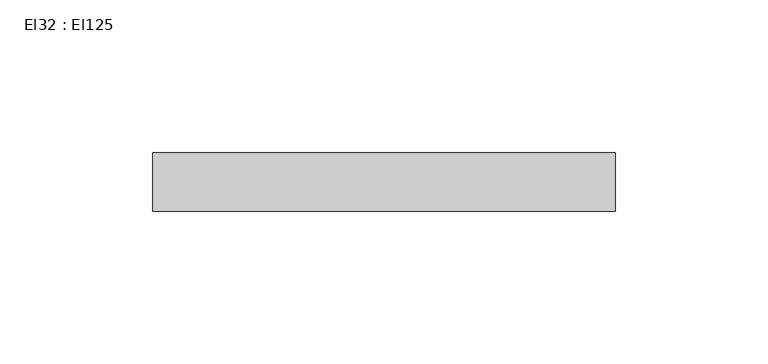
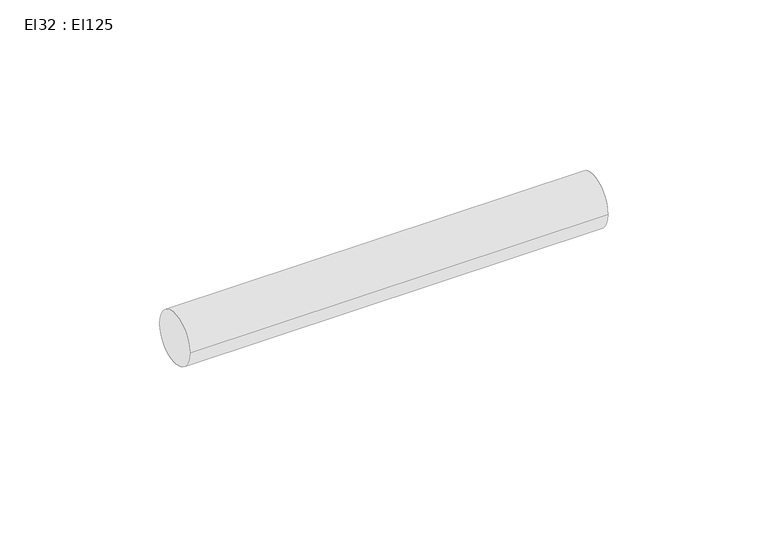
"""IFC4 building model written with IfcOpenShell, lengths in millimetres: cable carrier segment geometry, El32 : El125."""

from ifc_helpers import new_model, si_unit, point, frame, frame_2d, origin, place, context, project, spatial, circle_curve, trimmed, segment, composite_curve, outline, extrude, source, transform, mapped, element, save


def el32_el125_98d39b4c(model_context):
    return source(origin(), model_context, "Body", "SweptSolid", [
        extrude(outline(composite_curve([segment(trimmed(circle_curve(frame_2d((4566.0121745, 2700.0)), 9.5), [point((4556.5121745, 2700.0))], [point((4575.5121745, 2700.0))], False, "CARTESIAN"), True, "CONTINUOUS"), segment(trimmed(circle_curve(frame_2d((4566.0121745, 2700.0)), 9.5), [point((4575.5121745, 2700.0))], [point((4556.5121745, 2700.0))], False, "CARTESIAN"), True, "CONTINUOUS")], self_intersect=False)), frame((30208.0984511, 0.0, 0.0), z_axis=(1.0, 0.0, 0.0), x_axis=(0.0, 1.0, 0.0)), (0.0, 0.0, 1.0), 151.152),
    ])


if __name__ == "__main__":
    model = new_model("IFC4")
    model_context = context("Model", 3, world=origin())
    ifc_project = project(units=[si_unit("LENGTHUNIT", "METRE", prefix="MILLI")], contexts=[model_context])
    site = spatial("IfcSite", under=ifc_project)
    building = spatial("IfcBuilding", under=site)
    placement = place(None, origin())
    el32_el125_shape = el32_el125_98d39b4c(model_context)
    element("IfcCableCarrierSegment", 1, ObjectType="El32 : El125", at=placement, inside=building, context=model_context, shape_type="MappedRepresentation", body=[
        mapped(el32_el125_shape, transform((0.0, 0.0, 0.0), x_axis=(1.0, 0.0, 0.0), y_axis=(0.0, 1.0, 0.0), z_axis=(0.0, 0.0, 1.0))),
    ])
    save(model, "model.ifc")
